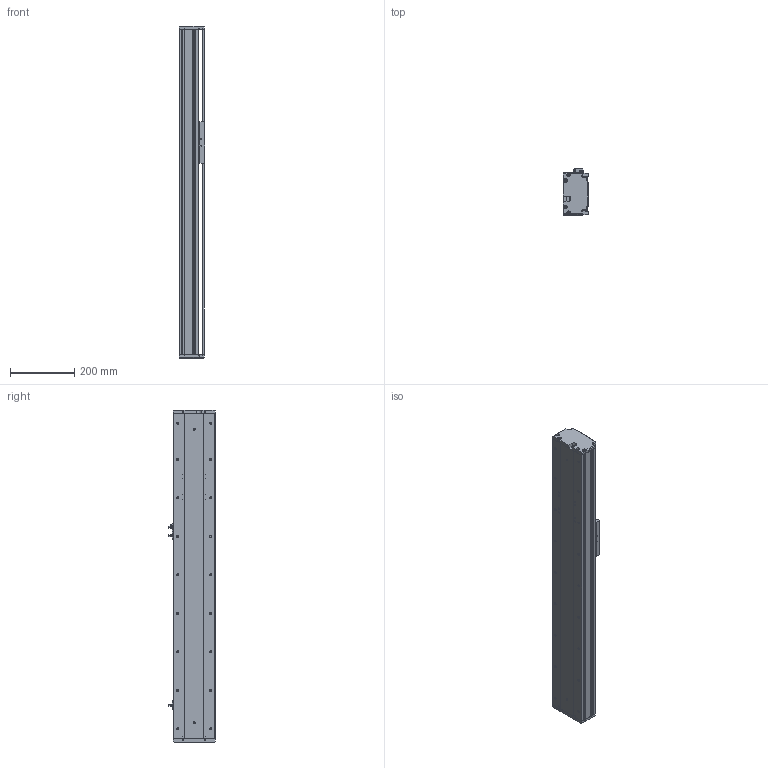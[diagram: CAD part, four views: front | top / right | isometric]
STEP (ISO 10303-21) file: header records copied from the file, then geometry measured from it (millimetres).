
FILE_DESCRIPTION (( 'STEP AP214' ), '1' );
FILE_NAME ('KSD130S-P2010-S550-M-CM.STEP', '2019-09-10T06:44:51', ( '微软用户' ), ( '微软中国' ), 'SwSTEP 2.0', 'SolidWorks 2014', '' );
FILE_SCHEMA (( 'AUTOMOTIVE_DESIGN' ));
Length unit declared in the file: millimetre
Products named in the file (8): 130宽马达安装板半封闭-内装; U倰嫖萇EEㄜSX672; 覜茼え100遵圉猾敕; 130宽盖板半封闭丝杠内装-550行程; 130宽滚珠丝杆安装板半封闭-内装-20丝杆; 130宽端盖半封闭-内装; 130宽底板半封闭丝杠内装-550行程; KSD130S-P2010-S550-M-CM
Assembly tree (9 placements, depth 2):
  KSD130S-P2010-S550-M-CM
    130宽底板半封闭丝杠内装-550行程
    130宽端盖半封闭-内装
    130宽滚珠丝杆安装板半封闭-内装-20丝杆
    130宽盖板半封闭丝杠内装-550行程
    覜茼え100遵圉猾敕
    U倰嫖萇EEㄜSX672  x3
    130宽马达安装板半封闭-内装
Bounding box: 80 x 143.7 x 1035 mm (x, y, z)
Volume: 3172871.3 mm3; surface area: 968673.3 mm2
Topology: 9 solids, 9 shells, 1075 faces, 3124 edges, 1988 vertices
Faces by surface type: cylinder 482, plane 447, cone 146
Entity records: 34674 total; most frequent: CARTESIAN_POINT 6701, DIRECTION 5038, ORIENTED_EDGE 4952, EDGE_CURVE 2476, AXIS2_PLACEMENT_3D 1829, VERTEX_POINT 1612, LINE 1380, VECTOR 1380
